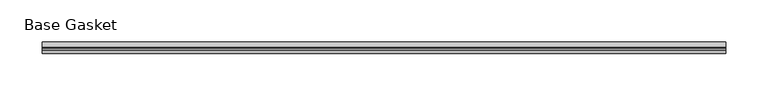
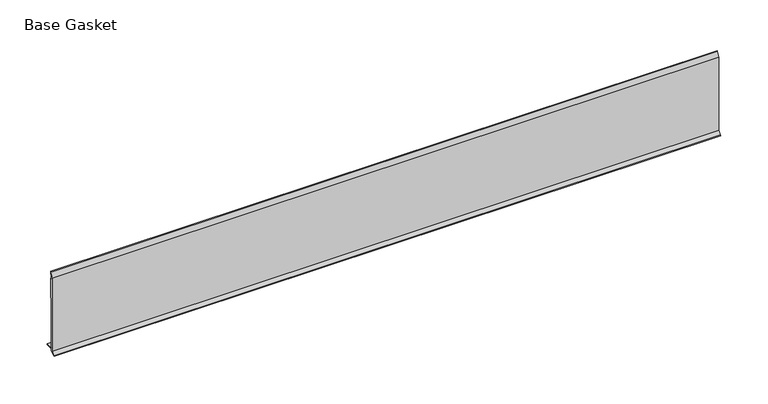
"""IFC4 building model written with IfcOpenShell, lengths in millimetres: furniture geometry, Gasket-Teknion-FHGB-AI_Healthcare-R2021 : Base Gasket."""

from ifc_helpers import new_model, si_unit, frame, origin, place, context, project, spatial, polyline, outline, extrude, source, transform, mapped, element, save


def base_gasket_691db5e4(model_context):
    return source(origin(), model_context, "Body", "SweptSolid", [
        extrude(outline(polyline([(-3.7283812, 98.4568417), (-1.1891543, 104.587663), (-0.6755308, 105.2002997), (-0.6755308, 104.4162708), (-2.2043812, 98.4568417), (-2.2043812, 96.8693477), (-1.4106313, 96.8693477), (-1.4106313, 71.4693447), (-2.2043812, 71.4693447), (-2.2043812, 7.9398773), (6.2405171, 7.9398773), (6.2405171, 6.3818476), (-2.1334222, 6.3818476), (-2.2043812, 4.3498477), (-6.8281054, 0.3520979), (-7.8482342, 0.0), (-7.4222115, 0.6560174), (-3.7283812, 4.3498477), (-3.7283812, 98.4568417)])), frame((-1527.8982117, 0.0, 0.0), z_axis=(1.0, 0.0, 0.0), x_axis=(0.0, 1.0, 0.0)), (0.0, 0.0, 1.0), 812.8),
    ])


if __name__ == "__main__":
    model = new_model("IFC4")
    model_context = context("Model", 3, world=origin())
    ifc_project = project(units=[si_unit("LENGTHUNIT", "METRE", prefix="MILLI")], contexts=[model_context])
    site = spatial("IfcSite", under=ifc_project)
    building = spatial("IfcBuilding", under=site)
    placement = place(None, origin())
    base_gasket_shape = base_gasket_691db5e4(model_context)
    element("IfcFurniture", 1, ObjectType="Gasket-Teknion-FHGB-AI_Healthcare-R2021 : Base Gasket", at=placement, inside=building, context=model_context, shape_type="MappedRepresentation", body=[
        mapped(base_gasket_shape, transform((0.0, 0.0, 0.0), x_axis=(1.0, 0.0, 0.0), y_axis=(0.0, 1.0, 0.0), z_axis=(0.0, 0.0, 1.0))),
    ])
    save(model, "model.ifc")
